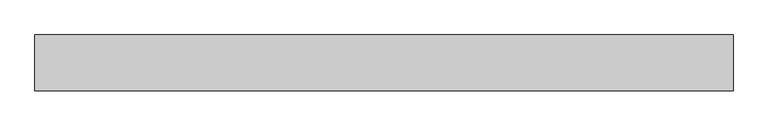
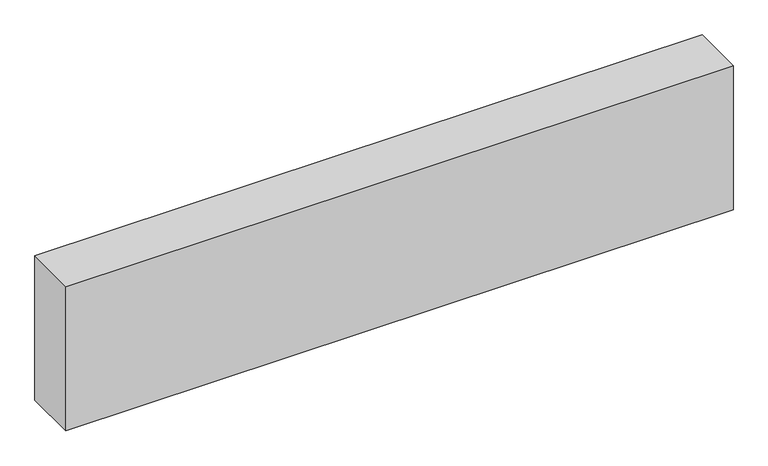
"""IFC4 building model written with IfcOpenShell, lengths in millimetres: proxy geometry."""

from ifc_helpers import new_model, si_unit, frame, origin, place, context, project, spatial, polyline, outline, extrude, source, transform, mapped, element, save


def structural_framing_a168797f(model_context):
    return source(origin(), model_context, "Body", "SweptSolid", [
        extrude(outline(polyline([(-875.0, -70.0), (-875.0, 70.0), (875.0, 70.0), (875.0, -70.0), (-875.0, -70.0)])), frame((0.0, 0.0, -400.0), z_axis=(0.0, 0.0, 1.0), x_axis=(1.0, 0.0, 0.0)), (0.0, 0.0, 1.0), 400.0),
    ])


if __name__ == "__main__":
    model = new_model("IFC4")
    model_context = context("Model", 3, world=origin())
    ifc_project = project(units=[si_unit("LENGTHUNIT", "METRE", prefix="MILLI")], contexts=[model_context])
    site = spatial("IfcSite", under=ifc_project)
    building = spatial("IfcBuilding", under=site)
    placement = place(None, origin())
    structural_framing_shape = structural_framing_a168797f(model_context)
    element("IfcBuildingElementProxy", 1, Name="Structural Framing", at=placement, inside=building, context=model_context, shape_type="MappedRepresentation", body=[
        mapped(structural_framing_shape, transform((0.0, 0.0, 0.0), x_axis=(1.0, 0.0, 0.0), y_axis=(0.0, 1.0, 0.0), z_axis=(0.0, 0.0, 1.0))),
    ])
    save(model, "model.ifc")
